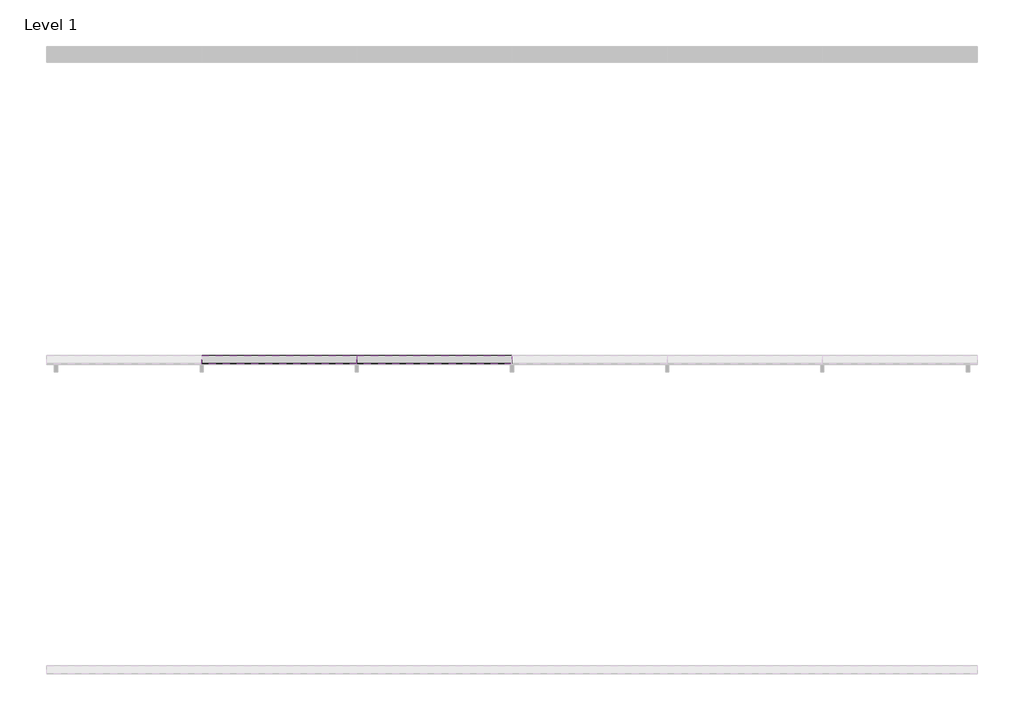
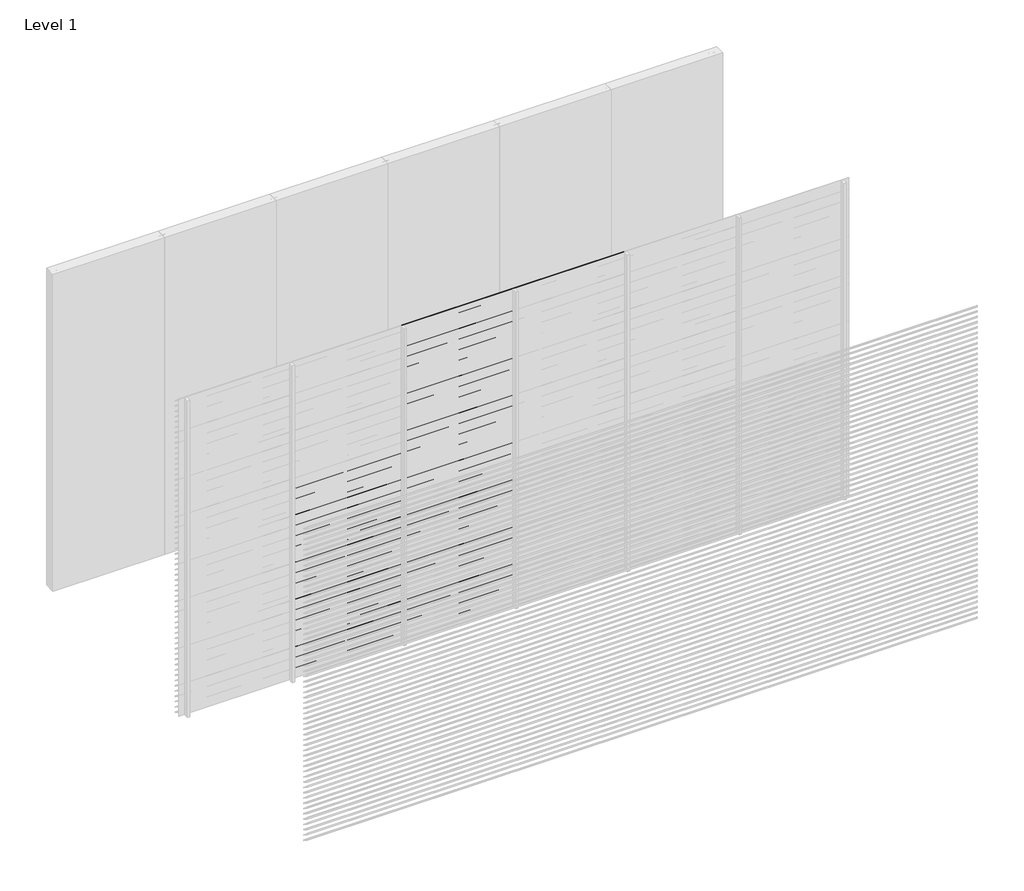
# One storey, part 12 of 18: 97 proxies.
"""IFC4 building model written with IfcOpenShell, lengths in millimetres."""

from ifc_helpers import new_model, si_unit, frame, origin, place, context, project, spatial, polyline, outline, extrude, element, save

model = new_model("IFC4")

# Units and contexts
model_context = context("Model", 3, world=origin())
ifc_project = project(units=[si_unit("LENGTHUNIT", "METRE", prefix="MILLI")], contexts=[model_context])

# Site, building, storey
site = spatial("IfcSite", under=ifc_project)
building = spatial("IfcBuilding", under=site)
storey = spatial("IfcBuildingStorey", under=building, Name="Level 1", Elevation=0.0)

# Proxies
placement = place(None, origin())
element("IfcBuildingElementProxy", 1, Name="Wall Sweeps", at=placement, inside=storey, context=model_context, shape_type="SweptSolid", body=[
    extrude(outline(polyline([(-5995.0, 1800.0), (-5995.0, 1791.0744429), (-5943.0, 1756.0), (-5943.0, 1750.0), (-5997.0, 1786.4234599), (-5997.0, 1800.0), (-5995.0, 1800.0)])), frame((1000.0, 0.0, 0.0), z_axis=(1.0, 0.0, 0.0), x_axis=(0.0, 1.0, 0.0)), (0.0, 0.0, 1.0), 1000.0),
])
element("IfcBuildingElementProxy", 2, Name="Wall Sweeps", at=placement, inside=storey, context=model_context, shape_type="SweptSolid", body=[
    extrude(outline(polyline([(-5995.0, 1750.0), (-5995.0, 1741.0744429), (-5943.0, 1706.0), (-5943.0, 1700.0), (-5997.0, 1736.4234599), (-5997.0, 1750.0), (-5995.0, 1750.0)])), frame((1000.0, 0.0, 0.0), z_axis=(1.0, 0.0, 0.0), x_axis=(0.0, 1.0, 0.0)), (0.0, 0.0, 1.0), 1000.0),
])
element("IfcBuildingElementProxy", 3, Name="Wall Sweeps", at=placement, inside=storey, context=model_context, shape_type="SweptSolid", body=[
    extrude(outline(polyline([(-5995.0, 1700.0), (-5995.0, 1691.0744429), (-5943.0, 1656.0), (-5943.0, 1650.0), (-5997.0, 1686.4234599), (-5997.0, 1700.0), (-5995.0, 1700.0)])), frame((1000.0, 0.0, 0.0), z_axis=(1.0, 0.0, 0.0), x_axis=(0.0, 1.0, 0.0)), (0.0, 0.0, 1.0), 1000.0),
])
element("IfcBuildingElementProxy", 4, Name="Wall Sweeps", at=placement, inside=storey, context=model_context, shape_type="SweptSolid", body=[
    extrude(outline(polyline([(-5995.0, 1650.0), (-5995.0, 1641.0744429), (-5943.0, 1606.0), (-5943.0, 1600.0), (-5997.0, 1636.4234599), (-5997.0, 1650.0), (-5995.0, 1650.0)])), frame((1000.0, 0.0, 0.0), z_axis=(1.0, 0.0, 0.0), x_axis=(0.0, 1.0, 0.0)), (0.0, 0.0, 1.0), 1000.0),
])
element("IfcBuildingElementProxy", 5, Name="Wall Sweeps", at=placement, inside=storey, context=model_context, shape_type="SweptSolid", body=[
    extrude(outline(polyline([(-5995.0, 1600.0), (-5995.0, 1591.0744429), (-5943.0, 1556.0), (-5943.0, 1550.0), (-5997.0, 1586.4234599), (-5997.0, 1600.0), (-5995.0, 1600.0)])), frame((1000.0, 0.0, 0.0), z_axis=(1.0, 0.0, 0.0), x_axis=(0.0, 1.0, 0.0)), (0.0, 0.0, 1.0), 1000.0),
])
element("IfcBuildingElementProxy", 6, Name="Wall Sweeps", at=placement, inside=storey, context=model_context, shape_type="SweptSolid", body=[
    extrude(outline(polyline([(-5995.0, 1550.0), (-5995.0, 1541.0744429), (-5943.0, 1506.0), (-5943.0, 1500.0), (-5997.0, 1536.4234599), (-5997.0, 1550.0), (-5995.0, 1550.0)])), frame((1000.0, 0.0, 0.0), z_axis=(1.0, 0.0, 0.0), x_axis=(0.0, 1.0, 0.0)), (0.0, 0.0, 1.0), 1000.0),
])
element("IfcBuildingElementProxy", 7, Name="Wall Sweeps", at=placement, inside=storey, context=model_context, shape_type="SweptSolid", body=[
    extrude(outline(polyline([(-5995.0, 1500.0), (-5995.0, 1491.0744429), (-5943.0, 1456.0), (-5943.0, 1450.0), (-5997.0, 1486.4234599), (-5997.0, 1500.0), (-5995.0, 1500.0)])), frame((1000.0, 0.0, 0.0), z_axis=(1.0, 0.0, 0.0), x_axis=(0.0, 1.0, 0.0)), (0.0, 0.0, 1.0), 1000.0),
])
element("IfcBuildingElementProxy", 8, Name="Wall Sweeps", at=placement, inside=storey, context=model_context, shape_type="SweptSolid", body=[
    extrude(outline(polyline([(-5995.0, 1450.0), (-5995.0, 1441.0744429), (-5943.0, 1406.0), (-5943.0, 1400.0), (-5997.0, 1436.4234599), (-5997.0, 1450.0), (-5995.0, 1450.0)])), frame((1000.0, 0.0, 0.0), z_axis=(1.0, 0.0, 0.0), x_axis=(0.0, 1.0, 0.0)), (0.0, 0.0, 1.0), 1000.0),
])
element("IfcBuildingElementProxy", 9, Name="Wall Sweeps", at=placement, inside=storey, context=model_context, shape_type="SweptSolid", body=[
    extrude(outline(polyline([(-5995.0, 1400.0), (-5995.0, 1391.0744429), (-5943.0, 1356.0), (-5943.0, 1350.0), (-5997.0, 1386.4234599), (-5997.0, 1400.0), (-5995.0, 1400.0)])), frame((1000.0, 0.0, 0.0), z_axis=(1.0, 0.0, 0.0), x_axis=(0.0, 1.0, 0.0)), (0.0, 0.0, 1.0), 1000.0),
])
element("IfcBuildingElementProxy", 10, Name="Wall Sweeps", at=placement, inside=storey, context=model_context, shape_type="SweptSolid", body=[
    extrude(outline(polyline([(-5995.0, 1350.0), (-5995.0, 1341.0744429), (-5943.0, 1306.0), (-5943.0, 1300.0), (-5997.0, 1336.4234599), (-5997.0, 1350.0), (-5995.0, 1350.0)])), frame((1000.0, 0.0, 0.0), z_axis=(1.0, 0.0, 0.0), x_axis=(0.0, 1.0, 0.0)), (0.0, 0.0, 1.0), 1000.0),
])
element("IfcBuildingElementProxy", 11, Name="Wall Sweeps", at=placement, inside=storey, context=model_context, shape_type="SweptSolid", body=[
    extrude(outline(polyline([(-5995.0, 1300.0), (-5995.0, 1291.0744429), (-5943.0, 1256.0), (-5943.0, 1250.0), (-5997.0, 1286.4234599), (-5997.0, 1300.0), (-5995.0, 1300.0)])), frame((1000.0, 0.0, 0.0), z_axis=(1.0, 0.0, 0.0), x_axis=(0.0, 1.0, 0.0)), (0.0, 0.0, 1.0), 1000.0),
])
element("IfcBuildingElementProxy", 12, Name="Wall Sweeps", at=placement, inside=storey, context=model_context, shape_type="SweptSolid", body=[
    extrude(outline(polyline([(-5995.0, 1250.0), (-5995.0, 1241.0744429), (-5943.0, 1206.0), (-5943.0, 1200.0), (-5997.0, 1236.4234599), (-5997.0, 1250.0), (-5995.0, 1250.0)])), frame((1000.0, 0.0, 0.0), z_axis=(1.0, 0.0, 0.0), x_axis=(0.0, 1.0, 0.0)), (0.0, 0.0, 1.0), 1000.0),
])
element("IfcBuildingElementProxy", 13, Name="Wall Sweeps", at=placement, inside=storey, context=model_context, shape_type="SweptSolid", body=[
    extrude(outline(polyline([(-5995.0, 1200.0), (-5995.0, 1191.0744429), (-5943.0, 1156.0), (-5943.0, 1150.0), (-5997.0, 1186.4234599), (-5997.0, 1200.0), (-5995.0, 1200.0)])), frame((1000.0, 0.0, 0.0), z_axis=(1.0, 0.0, 0.0), x_axis=(0.0, 1.0, 0.0)), (0.0, 0.0, 1.0), 1000.0),
])
element("IfcBuildingElementProxy", 14, Name="Wall Sweeps", at=placement, inside=storey, context=model_context, shape_type="SweptSolid", body=[
    extrude(outline(polyline([(-5995.0, 1150.0), (-5995.0, 1141.0744429), (-5943.0, 1106.0), (-5943.0, 1100.0), (-5997.0, 1136.4234599), (-5997.0, 1150.0), (-5995.0, 1150.0)])), frame((1000.0, 0.0, 0.0), z_axis=(1.0, 0.0, 0.0), x_axis=(0.0, 1.0, 0.0)), (0.0, 0.0, 1.0), 1000.0),
])
element("IfcBuildingElementProxy", 15, Name="Wall Sweeps", at=placement, inside=storey, context=model_context, shape_type="SweptSolid", body=[
    extrude(outline(polyline([(-5995.0, 1100.0), (-5995.0, 1091.0744429), (-5943.0, 1056.0), (-5943.0, 1050.0), (-5997.0, 1086.4234599), (-5997.0, 1100.0), (-5995.0, 1100.0)])), frame((1000.0, 0.0, 0.0), z_axis=(1.0, 0.0, 0.0), x_axis=(0.0, 1.0, 0.0)), (0.0, 0.0, 1.0), 1000.0),
])
element("IfcBuildingElementProxy", 16, Name="Wall Sweeps", at=placement, inside=storey, context=model_context, shape_type="SweptSolid", body=[
    extrude(outline(polyline([(-5995.0, 1050.0), (-5995.0, 1041.0744429), (-5943.0, 1006.0), (-5943.0, 1000.0), (-5997.0, 1036.4234599), (-5997.0, 1050.0), (-5995.0, 1050.0)])), frame((1000.0, 0.0, 0.0), z_axis=(1.0, 0.0, 0.0), x_axis=(0.0, 1.0, 0.0)), (0.0, 0.0, 1.0), 1000.0),
])
element("IfcBuildingElementProxy", 17, Name="Wall Sweeps", at=placement, inside=storey, context=model_context, shape_type="SweptSolid", body=[
    extrude(outline(polyline([(-5995.0, 1000.0), (-5995.0, 991.0744429), (-5943.0, 956.0), (-5943.0, 950.0), (-5997.0, 986.4234599), (-5997.0, 1000.0), (-5995.0, 1000.0)])), frame((1000.0, 0.0, 0.0), z_axis=(1.0, 0.0, 0.0), x_axis=(0.0, 1.0, 0.0)), (0.0, 0.0, 1.0), 1000.0),
])
element("IfcBuildingElementProxy", 18, Name="Wall Sweeps", at=placement, inside=storey, context=model_context, shape_type="SweptSolid", body=[
    extrude(outline(polyline([(-5995.0, 950.0), (-5995.0, 941.0744429), (-5943.0, 906.0), (-5943.0, 900.0), (-5997.0, 936.4234599), (-5997.0, 950.0), (-5995.0, 950.0)])), frame((1000.0, 0.0, 0.0), z_axis=(1.0, 0.0, 0.0), x_axis=(0.0, 1.0, 0.0)), (0.0, 0.0, 1.0), 1000.0),
])
element("IfcBuildingElementProxy", 19, Name="Wall Sweeps", at=placement, inside=storey, context=model_context, shape_type="SweptSolid", body=[
    extrude(outline(polyline([(-5995.0, 900.0), (-5995.0, 891.0744429), (-5943.0, 856.0), (-5943.0, 850.0), (-5997.0, 886.4234599), (-5997.0, 900.0), (-5995.0, 900.0)])), frame((1000.0, 0.0, 0.0), z_axis=(1.0, 0.0, 0.0), x_axis=(0.0, 1.0, 0.0)), (0.0, 0.0, 1.0), 1000.0),
])
element("IfcBuildingElementProxy", 20, Name="Wall Sweeps", at=placement, inside=storey, context=model_context, shape_type="SweptSolid", body=[
    extrude(outline(polyline([(-5995.0, 850.0), (-5995.0, 841.0744429), (-5943.0, 806.0), (-5943.0, 800.0), (-5997.0, 836.4234599), (-5997.0, 850.0), (-5995.0, 850.0)])), frame((1000.0, 0.0, 0.0), z_axis=(1.0, 0.0, 0.0), x_axis=(0.0, 1.0, 0.0)), (0.0, 0.0, 1.0), 1000.0),
])
element("IfcBuildingElementProxy", 21, Name="Wall Sweeps", at=placement, inside=storey, context=model_context, shape_type="SweptSolid", body=[
    extrude(outline(polyline([(-5995.0, 800.0), (-5995.0, 791.0744429), (-5943.0, 756.0), (-5943.0, 750.0), (-5997.0, 786.4234599), (-5997.0, 800.0), (-5995.0, 800.0)])), frame((1000.0, 0.0, 0.0), z_axis=(1.0, 0.0, 0.0), x_axis=(0.0, 1.0, 0.0)), (0.0, 0.0, 1.0), 1000.0),
])
element("IfcBuildingElementProxy", 22, Name="Wall Sweeps", at=placement, inside=storey, context=model_context, shape_type="SweptSolid", body=[
    extrude(outline(polyline([(-5995.0, 750.0), (-5995.0, 741.0744429), (-5943.0, 706.0), (-5943.0, 700.0), (-5997.0, 736.4234599), (-5997.0, 750.0), (-5995.0, 750.0)])), frame((1000.0, 0.0, 0.0), z_axis=(1.0, 0.0, 0.0), x_axis=(0.0, 1.0, 0.0)), (0.0, 0.0, 1.0), 1000.0),
])
element("IfcBuildingElementProxy", 23, Name="Wall Sweeps", at=placement, inside=storey, context=model_context, shape_type="SweptSolid", body=[
    extrude(outline(polyline([(-5995.0, 700.0), (-5995.0, 691.0744429), (-5943.0, 656.0), (-5943.0, 650.0), (-5997.0, 686.4234599), (-5997.0, 700.0), (-5995.0, 700.0)])), frame((1000.0, 0.0, 0.0), z_axis=(1.0, 0.0, 0.0), x_axis=(0.0, 1.0, 0.0)), (0.0, 0.0, 1.0), 1000.0),
])
element("IfcBuildingElementProxy", 24, Name="Wall Sweeps", at=placement, inside=storey, context=model_context, shape_type="SweptSolid", body=[
    extrude(outline(polyline([(-5995.0, 650.0), (-5995.0, 641.0744429), (-5943.0, 606.0), (-5943.0, 600.0), (-5997.0, 636.4234599), (-5997.0, 650.0), (-5995.0, 650.0)])), frame((1000.0, 0.0, 0.0), z_axis=(1.0, 0.0, 0.0), x_axis=(0.0, 1.0, 0.0)), (0.0, 0.0, 1.0), 1000.0),
])
element("IfcBuildingElementProxy", 25, Name="Wall Sweeps", at=placement, inside=storey, context=model_context, shape_type="SweptSolid", body=[
    extrude(outline(polyline([(-5995.0, 600.0), (-5995.0, 591.0744429), (-5943.0, 556.0), (-5943.0, 550.0), (-5997.0, 586.4234599), (-5997.0, 600.0), (-5995.0, 600.0)])), frame((1000.0, 0.0, 0.0), z_axis=(1.0, 0.0, 0.0), x_axis=(0.0, 1.0, 0.0)), (0.0, 0.0, 1.0), 1000.0),
])
element("IfcBuildingElementProxy", 26, Name="Wall Sweeps", at=placement, inside=storey, context=model_context, shape_type="SweptSolid", body=[
    extrude(outline(polyline([(-5995.0, 550.0), (-5995.0, 541.0744429), (-5943.0, 506.0), (-5943.0, 500.0), (-5997.0, 536.4234599), (-5997.0, 550.0), (-5995.0, 550.0)])), frame((1000.0, 0.0, 0.0), z_axis=(1.0, 0.0, 0.0), x_axis=(0.0, 1.0, 0.0)), (0.0, 0.0, 1.0), 1000.0),
])
element("IfcBuildingElementProxy", 27, Name="Wall Sweeps", at=placement, inside=storey, context=model_context, shape_type="SweptSolid", body=[
    extrude(outline(polyline([(-5995.0, 500.0), (-5995.0, 491.0744429), (-5943.0, 456.0), (-5943.0, 450.0), (-5997.0, 486.4234599), (-5997.0, 500.0), (-5995.0, 500.0)])), frame((1000.0, 0.0, 0.0), z_axis=(1.0, 0.0, 0.0), x_axis=(0.0, 1.0, 0.0)), (0.0, 0.0, 1.0), 1000.0),
])
element("IfcBuildingElementProxy", 28, Name="Wall Sweeps", at=placement, inside=storey, context=model_context, shape_type="SweptSolid", body=[
    extrude(outline(polyline([(-5995.0, 450.0), (-5995.0, 441.0744429), (-5943.0, 406.0), (-5943.0, 400.0), (-5997.0, 436.4234599), (-5997.0, 450.0), (-5995.0, 450.0)])), frame((1000.0, 0.0, 0.0), z_axis=(1.0, 0.0, 0.0), x_axis=(0.0, 1.0, 0.0)), (0.0, 0.0, 1.0), 1000.0),
])
element("IfcBuildingElementProxy", 29, Name="Wall Sweeps", at=placement, inside=storey, context=model_context, shape_type="SweptSolid", body=[
    extrude(outline(polyline([(-5995.0, 400.0), (-5995.0, 391.0744429), (-5943.0, 356.0), (-5943.0, 350.0), (-5997.0, 386.4234599), (-5997.0, 400.0), (-5995.0, 400.0)])), frame((1000.0, 0.0, 0.0), z_axis=(1.0, 0.0, 0.0), x_axis=(0.0, 1.0, 0.0)), (0.0, 0.0, 1.0), 1000.0),
])
element("IfcBuildingElementProxy", 30, Name="Wall Sweeps", at=placement, inside=storey, context=model_context, shape_type="SweptSolid", body=[
    extrude(outline(polyline([(-5995.0, 350.0), (-5995.0, 341.0744429), (-5943.0, 306.0), (-5943.0, 300.0), (-5997.0, 336.4234599), (-5997.0, 350.0), (-5995.0, 350.0)])), frame((1000.0, 0.0, 0.0), z_axis=(1.0, 0.0, 0.0), x_axis=(0.0, 1.0, 0.0)), (0.0, 0.0, 1.0), 1000.0),
])
element("IfcBuildingElementProxy", 31, Name="Wall Sweeps", at=placement, inside=storey, context=model_context, shape_type="SweptSolid", body=[
    extrude(outline(polyline([(-5995.0, 300.0), (-5995.0, 291.0744429), (-5943.0, 256.0), (-5943.0, 250.0), (-5997.0, 286.4234599), (-5997.0, 300.0), (-5995.0, 300.0)])), frame((1000.0, 0.0, 0.0), z_axis=(1.0, 0.0, 0.0), x_axis=(0.0, 1.0, 0.0)), (0.0, 0.0, 1.0), 1000.0),
])
element("IfcBuildingElementProxy", 32, Name="Wall Sweeps", at=placement, inside=storey, context=model_context, shape_type="SweptSolid", body=[
    extrude(outline(polyline([(-5995.0, 250.0), (-5995.0, 241.0744429), (-5943.0, 206.0), (-5943.0, 200.0), (-5997.0, 236.4234599), (-5997.0, 250.0), (-5995.0, 250.0)])), frame((1000.0, 0.0, 0.0), z_axis=(1.0, 0.0, 0.0), x_axis=(0.0, 1.0, 0.0)), (0.0, 0.0, 1.0), 1000.0),
])
element("IfcBuildingElementProxy", 33, Name="Wall Sweeps", at=placement, inside=storey, context=model_context, shape_type="SweptSolid", body=[
    extrude(outline(polyline([(-5995.0, 200.0), (-5995.0, 191.0744429), (-5943.0, 156.0), (-5943.0, 150.0), (-5997.0, 186.4234599), (-5997.0, 200.0), (-5995.0, 200.0)])), frame((1000.0, 0.0, 0.0), z_axis=(1.0, 0.0, 0.0), x_axis=(0.0, 1.0, 0.0)), (0.0, 0.0, 1.0), 1000.0),
])
element("IfcBuildingElementProxy", 34, Name="Wall Sweeps", at=placement, inside=storey, context=model_context, shape_type="SweptSolid", body=[
    extrude(outline(polyline([(-5995.0, 150.0), (-5995.0, 141.0744429), (-5943.0, 106.0), (-5943.0, 100.0), (-5997.0, 136.4234599), (-5997.0, 150.0), (-5995.0, 150.0)])), frame((1000.0, 0.0, 0.0), z_axis=(1.0, 0.0, 0.0), x_axis=(0.0, 1.0, 0.0)), (0.0, 0.0, 1.0), 1000.0),
])
element("IfcBuildingElementProxy", 35, Name="Wall Sweeps", at=placement, inside=storey, context=model_context, shape_type="SweptSolid", body=[
    extrude(outline(polyline([(-5995.0, 100.0), (-5995.0, 91.0744429), (-5943.0, 56.0), (-5943.0, 50.0), (-5997.0, 86.4234599), (-5997.0, 100.0), (-5995.0, 100.0)])), frame((1000.0, 0.0, 0.0), z_axis=(1.0, 0.0, 0.0), x_axis=(0.0, 1.0, 0.0)), (0.0, 0.0, 1.0), 1000.0),
])
element("IfcBuildingElementProxy", 36, Name="Wall Sweeps", at=placement, inside=storey, context=model_context, shape_type="SweptSolid", body=[
    extrude(outline(polyline([(-5995.0, 50.0), (-5995.0, 41.0744429), (-5943.0, 6.0), (-5943.0, 0.0), (-5997.0, 36.4234599), (-5997.0, 50.0), (-5995.0, 50.0)])), frame((1000.0, 0.0, 0.0), z_axis=(1.0, 0.0, 0.0), x_axis=(0.0, 1.0, 0.0)), (0.0, 0.0, 1.0), 1000.0),
])
element("IfcBuildingElementProxy", 37, Name="Wall Sweeps", at=placement, inside=storey, context=model_context, shape_type="SweptSolid", body=[
    extrude(outline(polyline([(-5995.0, 3000.0), (-5995.0, 2991.0744429), (-5943.0, 2956.0), (-5943.0, 2950.0), (-5997.0, 2986.4234599), (-5997.0, 3000.0), (-5995.0, 3000.0)])), frame((2000.0, 0.0, 0.0), z_axis=(1.0, 0.0, 0.0), x_axis=(0.0, 1.0, 0.0)), (0.0, 0.0, 1.0), 1000.0),
])
element("IfcBuildingElementProxy", 38, Name="Wall Sweeps", at=placement, inside=storey, context=model_context, shape_type="SweptSolid", body=[
    extrude(outline(polyline([(-5995.0, 2950.0), (-5995.0, 2941.0744429), (-5943.0, 2906.0), (-5943.0, 2900.0), (-5997.0, 2936.4234599), (-5997.0, 2950.0), (-5995.0, 2950.0)])), frame((2000.0, 0.0, 0.0), z_axis=(1.0, 0.0, 0.0), x_axis=(0.0, 1.0, 0.0)), (0.0, 0.0, 1.0), 1000.0),
])
element("IfcBuildingElementProxy", 39, Name="Wall Sweeps", at=placement, inside=storey, context=model_context, shape_type="SweptSolid", body=[
    extrude(outline(polyline([(-5995.0, 2900.0), (-5995.0, 2891.0744429), (-5943.0, 2856.0), (-5943.0, 2850.0), (-5997.0, 2886.4234599), (-5997.0, 2900.0), (-5995.0, 2900.0)])), frame((2000.0, 0.0, 0.0), z_axis=(1.0, 0.0, 0.0), x_axis=(0.0, 1.0, 0.0)), (0.0, 0.0, 1.0), 1000.0),
])
element("IfcBuildingElementProxy", 40, Name="Wall Sweeps", at=placement, inside=storey, context=model_context, shape_type="SweptSolid", body=[
    extrude(outline(polyline([(-5995.0, 2850.0), (-5995.0, 2841.0744429), (-5943.0, 2806.0), (-5943.0, 2800.0), (-5997.0, 2836.4234599), (-5997.0, 2850.0), (-5995.0, 2850.0)])), frame((2000.0, 0.0, 0.0), z_axis=(1.0, 0.0, 0.0), x_axis=(0.0, 1.0, 0.0)), (0.0, 0.0, 1.0), 1000.0),
])
element("IfcBuildingElementProxy", 41, Name="Wall Sweeps", at=placement, inside=storey, context=model_context, shape_type="SweptSolid", body=[
    extrude(outline(polyline([(-5995.0, 2800.0), (-5995.0, 2791.0744429), (-5943.0, 2756.0), (-5943.0, 2750.0), (-5997.0, 2786.4234599), (-5997.0, 2800.0), (-5995.0, 2800.0)])), frame((2000.0, 0.0, 0.0), z_axis=(1.0, 0.0, 0.0), x_axis=(0.0, 1.0, 0.0)), (0.0, 0.0, 1.0), 1000.0),
])
element("IfcBuildingElementProxy", 42, Name="Wall Sweeps", at=placement, inside=storey, context=model_context, shape_type="SweptSolid", body=[
    extrude(outline(polyline([(-5995.0, 2750.0), (-5995.0, 2741.0744429), (-5943.0, 2706.0), (-5943.0, 2700.0), (-5997.0, 2736.4234599), (-5997.0, 2750.0), (-5995.0, 2750.0)])), frame((2000.0, 0.0, 0.0), z_axis=(1.0, 0.0, 0.0), x_axis=(0.0, 1.0, 0.0)), (0.0, 0.0, 1.0), 1000.0),
])
element("IfcBuildingElementProxy", 43, Name="Wall Sweeps", at=placement, inside=storey, context=model_context, shape_type="SweptSolid", body=[
    extrude(outline(polyline([(-5995.0, 2700.0), (-5995.0, 2691.0744429), (-5943.0, 2656.0), (-5943.0, 2650.0), (-5997.0, 2686.4234599), (-5997.0, 2700.0), (-5995.0, 2700.0)])), frame((2000.0, 0.0, 0.0), z_axis=(1.0, 0.0, 0.0), x_axis=(0.0, 1.0, 0.0)), (0.0, 0.0, 1.0), 1000.0),
])
element("IfcBuildingElementProxy", 44, Name="Wall Sweeps", at=placement, inside=storey, context=model_context, shape_type="SweptSolid", body=[
    extrude(outline(polyline([(-5995.0, 2650.0), (-5995.0, 2641.0744429), (-5943.0, 2606.0), (-5943.0, 2600.0), (-5997.0, 2636.4234599), (-5997.0, 2650.0), (-5995.0, 2650.0)])), frame((2000.0, 0.0, 0.0), z_axis=(1.0, 0.0, 0.0), x_axis=(0.0, 1.0, 0.0)), (0.0, 0.0, 1.0), 1000.0),
])
element("IfcBuildingElementProxy", 45, Name="Wall Sweeps", at=placement, inside=storey, context=model_context, shape_type="SweptSolid", body=[
    extrude(outline(polyline([(-5995.0, 2600.0), (-5995.0, 2591.0744429), (-5943.0, 2556.0), (-5943.0, 2550.0), (-5997.0, 2586.4234599), (-5997.0, 2600.0), (-5995.0, 2600.0)])), frame((2000.0, 0.0, 0.0), z_axis=(1.0, 0.0, 0.0), x_axis=(0.0, 1.0, 0.0)), (0.0, 0.0, 1.0), 1000.0),
])
element("IfcBuildingElementProxy", 46, Name="Wall Sweeps", at=placement, inside=storey, context=model_context, shape_type="SweptSolid", body=[
    extrude(outline(polyline([(-5995.0, 2550.0), (-5995.0, 2541.0744429), (-5943.0, 2506.0), (-5943.0, 2500.0), (-5997.0, 2536.4234599), (-5997.0, 2550.0), (-5995.0, 2550.0)])), frame((2000.0, 0.0, 0.0), z_axis=(1.0, 0.0, 0.0), x_axis=(0.0, 1.0, 0.0)), (0.0, 0.0, 1.0), 1000.0),
])
element("IfcBuildingElementProxy", 47, Name="Wall Sweeps", at=placement, inside=storey, context=model_context, shape_type="SweptSolid", body=[
    extrude(outline(polyline([(-5995.0, 2500.0), (-5995.0, 2491.0744429), (-5943.0, 2456.0), (-5943.0, 2450.0), (-5997.0, 2486.4234599), (-5997.0, 2500.0), (-5995.0, 2500.0)])), frame((2000.0, 0.0, 0.0), z_axis=(1.0, 0.0, 0.0), x_axis=(0.0, 1.0, 0.0)), (0.0, 0.0, 1.0), 1000.0),
])
element("IfcBuildingElementProxy", 48, Name="Wall Sweeps", at=placement, inside=storey, context=model_context, shape_type="SweptSolid", body=[
    extrude(outline(polyline([(-5995.0, 2450.0), (-5995.0, 2441.0744429), (-5943.0, 2406.0), (-5943.0, 2400.0), (-5997.0, 2436.4234599), (-5997.0, 2450.0), (-5995.0, 2450.0)])), frame((2000.0, 0.0, 0.0), z_axis=(1.0, 0.0, 0.0), x_axis=(0.0, 1.0, 0.0)), (0.0, 0.0, 1.0), 1000.0),
])
element("IfcBuildingElementProxy", 49, Name="Wall Sweeps", at=placement, inside=storey, context=model_context, shape_type="SweptSolid", body=[
    extrude(outline(polyline([(-5995.0, 2400.0), (-5995.0, 2391.0744429), (-5943.0, 2356.0), (-5943.0, 2350.0), (-5997.0, 2386.4234599), (-5997.0, 2400.0), (-5995.0, 2400.0)])), frame((2000.0, 0.0, 0.0), z_axis=(1.0, 0.0, 0.0), x_axis=(0.0, 1.0, 0.0)), (0.0, 0.0, 1.0), 1000.0),
])
element("IfcBuildingElementProxy", 50, Name="Wall Sweeps", at=placement, inside=storey, context=model_context, shape_type="SweptSolid", body=[
    extrude(outline(polyline([(-5995.0, 2350.0), (-5995.0, 2341.0744429), (-5943.0, 2306.0), (-5943.0, 2300.0), (-5997.0, 2336.4234599), (-5997.0, 2350.0), (-5995.0, 2350.0)])), frame((2000.0, 0.0, 0.0), z_axis=(1.0, 0.0, 0.0), x_axis=(0.0, 1.0, 0.0)), (0.0, 0.0, 1.0), 1000.0),
])
element("IfcBuildingElementProxy", 51, Name="Wall Sweeps", at=placement, inside=storey, context=model_context, shape_type="SweptSolid", body=[
    extrude(outline(polyline([(-5995.0, 2300.0), (-5995.0, 2291.0744429), (-5943.0, 2256.0), (-5943.0, 2250.0), (-5997.0, 2286.4234599), (-5997.0, 2300.0), (-5995.0, 2300.0)])), frame((2000.0, 0.0, 0.0), z_axis=(1.0, 0.0, 0.0), x_axis=(0.0, 1.0, 0.0)), (0.0, 0.0, 1.0), 1000.0),
])
element("IfcBuildingElementProxy", 52, Name="Wall Sweeps", at=placement, inside=storey, context=model_context, shape_type="SweptSolid", body=[
    extrude(outline(polyline([(-5995.0, 2250.0), (-5995.0, 2241.0744429), (-5943.0, 2206.0), (-5943.0, 2200.0), (-5997.0, 2236.4234599), (-5997.0, 2250.0), (-5995.0, 2250.0)])), frame((2000.0, 0.0, 0.0), z_axis=(1.0, 0.0, 0.0), x_axis=(0.0, 1.0, 0.0)), (0.0, 0.0, 1.0), 1000.0),
])
element("IfcBuildingElementProxy", 53, Name="Wall Sweeps", at=placement, inside=storey, context=model_context, shape_type="SweptSolid", body=[
    extrude(outline(polyline([(-5995.0, 2200.0), (-5995.0, 2191.0744429), (-5943.0, 2156.0), (-5943.0, 2150.0), (-5997.0, 2186.4234599), (-5997.0, 2200.0), (-5995.0, 2200.0)])), frame((2000.0, 0.0, 0.0), z_axis=(1.0, 0.0, 0.0), x_axis=(0.0, 1.0, 0.0)), (0.0, 0.0, 1.0), 1000.0),
])
element("IfcBuildingElementProxy", 54, Name="Wall Sweeps", at=placement, inside=storey, context=model_context, shape_type="SweptSolid", body=[
    extrude(outline(polyline([(-5995.0, 2150.0), (-5995.0, 2141.0744429), (-5943.0, 2106.0), (-5943.0, 2100.0), (-5997.0, 2136.4234599), (-5997.0, 2150.0), (-5995.0, 2150.0)])), frame((2000.0, 0.0, 0.0), z_axis=(1.0, 0.0, 0.0), x_axis=(0.0, 1.0, 0.0)), (0.0, 0.0, 1.0), 1000.0),
])
element("IfcBuildingElementProxy", 55, Name="Wall Sweeps", at=placement, inside=storey, context=model_context, shape_type="SweptSolid", body=[
    extrude(outline(polyline([(-5995.0, 2100.0), (-5995.0, 2091.0744429), (-5943.0, 2056.0), (-5943.0, 2050.0), (-5997.0, 2086.4234599), (-5997.0, 2100.0), (-5995.0, 2100.0)])), frame((2000.0, 0.0, 0.0), z_axis=(1.0, 0.0, 0.0), x_axis=(0.0, 1.0, 0.0)), (0.0, 0.0, 1.0), 1000.0),
])
element("IfcBuildingElementProxy", 56, Name="Wall Sweeps", at=placement, inside=storey, context=model_context, shape_type="SweptSolid", body=[
    extrude(outline(polyline([(-5995.0, 2050.0), (-5995.0, 2041.0744429), (-5943.0, 2006.0), (-5943.0, 2000.0), (-5997.0, 2036.4234599), (-5997.0, 2050.0), (-5995.0, 2050.0)])), frame((2000.0, 0.0, 0.0), z_axis=(1.0, 0.0, 0.0), x_axis=(0.0, 1.0, 0.0)), (0.0, 0.0, 1.0), 1000.0),
])
element("IfcBuildingElementProxy", 57, Name="Wall Sweeps", at=placement, inside=storey, context=model_context, shape_type="SweptSolid", body=[
    extrude(outline(polyline([(-5995.0, 2000.0), (-5995.0, 1991.0744429), (-5943.0, 1956.0), (-5943.0, 1950.0), (-5997.0, 1986.4234599), (-5997.0, 2000.0), (-5995.0, 2000.0)])), frame((2000.0, 0.0, 0.0), z_axis=(1.0, 0.0, 0.0), x_axis=(0.0, 1.0, 0.0)), (0.0, 0.0, 1.0), 1000.0),
])
element("IfcBuildingElementProxy", 58, Name="Wall Sweeps", at=placement, inside=storey, context=model_context, shape_type="SweptSolid", body=[
    extrude(outline(polyline([(-5995.0, 1950.0), (-5995.0, 1941.0744429), (-5943.0, 1906.0), (-5943.0, 1900.0), (-5997.0, 1936.4234599), (-5997.0, 1950.0), (-5995.0, 1950.0)])), frame((2000.0, 0.0, 0.0), z_axis=(1.0, 0.0, 0.0), x_axis=(0.0, 1.0, 0.0)), (0.0, 0.0, 1.0), 1000.0),
])
element("IfcBuildingElementProxy", 59, Name="Wall Sweeps", at=placement, inside=storey, context=model_context, shape_type="SweptSolid", body=[
    extrude(outline(polyline([(-5995.0, 1900.0), (-5995.0, 1891.0744429), (-5943.0, 1856.0), (-5943.0, 1850.0), (-5997.0, 1886.4234599), (-5997.0, 1900.0), (-5995.0, 1900.0)])), frame((2000.0, 0.0, 0.0), z_axis=(1.0, 0.0, 0.0), x_axis=(0.0, 1.0, 0.0)), (0.0, 0.0, 1.0), 1000.0),
])
element("IfcBuildingElementProxy", 60, Name="Wall Sweeps", at=placement, inside=storey, context=model_context, shape_type="SweptSolid", body=[
    extrude(outline(polyline([(-5995.0, 1850.0), (-5995.0, 1841.0744429), (-5943.0, 1806.0), (-5943.0, 1800.0), (-5997.0, 1836.4234599), (-5997.0, 1850.0), (-5995.0, 1850.0)])), frame((2000.0, 0.0, 0.0), z_axis=(1.0, 0.0, 0.0), x_axis=(0.0, 1.0, 0.0)), (0.0, 0.0, 1.0), 1000.0),
])
element("IfcBuildingElementProxy", 61, Name="Wall Sweeps", at=placement, inside=storey, context=model_context, shape_type="SweptSolid", body=[
    extrude(outline(polyline([(-5995.0, 1800.0), (-5995.0, 1791.0744429), (-5943.0, 1756.0), (-5943.0, 1750.0), (-5997.0, 1786.4234599), (-5997.0, 1800.0), (-5995.0, 1800.0)])), frame((2000.0, 0.0, 0.0), z_axis=(1.0, 0.0, 0.0), x_axis=(0.0, 1.0, 0.0)), (0.0, 0.0, 1.0), 1000.0),
])
element("IfcBuildingElementProxy", 62, Name="Wall Sweeps", at=placement, inside=storey, context=model_context, shape_type="SweptSolid", body=[
    extrude(outline(polyline([(-5995.0, 1750.0), (-5995.0, 1741.0744429), (-5943.0, 1706.0), (-5943.0, 1700.0), (-5997.0, 1736.4234599), (-5997.0, 1750.0), (-5995.0, 1750.0)])), frame((2000.0, 0.0, 0.0), z_axis=(1.0, 0.0, 0.0), x_axis=(0.0, 1.0, 0.0)), (0.0, 0.0, 1.0), 1000.0),
])
element("IfcBuildingElementProxy", 63, Name="Wall Sweeps", at=placement, inside=storey, context=model_context, shape_type="SweptSolid", body=[
    extrude(outline(polyline([(-5995.0, 1700.0), (-5995.0, 1691.0744429), (-5943.0, 1656.0), (-5943.0, 1650.0), (-5997.0, 1686.4234599), (-5997.0, 1700.0), (-5995.0, 1700.0)])), frame((2000.0, 0.0, 0.0), z_axis=(1.0, 0.0, 0.0), x_axis=(0.0, 1.0, 0.0)), (0.0, 0.0, 1.0), 1000.0),
])
element("IfcBuildingElementProxy", 64, Name="Wall Sweeps", at=placement, inside=storey, context=model_context, shape_type="SweptSolid", body=[
    extrude(outline(polyline([(-5995.0, 1650.0), (-5995.0, 1641.0744429), (-5943.0, 1606.0), (-5943.0, 1600.0), (-5997.0, 1636.4234599), (-5997.0, 1650.0), (-5995.0, 1650.0)])), frame((2000.0, 0.0, 0.0), z_axis=(1.0, 0.0, 0.0), x_axis=(0.0, 1.0, 0.0)), (0.0, 0.0, 1.0), 1000.0),
])
element("IfcBuildingElementProxy", 65, Name="Wall Sweeps", at=placement, inside=storey, context=model_context, shape_type="SweptSolid", body=[
    extrude(outline(polyline([(-5995.0, 1600.0), (-5995.0, 1591.0744429), (-5943.0, 1556.0), (-5943.0, 1550.0), (-5997.0, 1586.4234599), (-5997.0, 1600.0), (-5995.0, 1600.0)])), frame((2000.0, 0.0, 0.0), z_axis=(1.0, 0.0, 0.0), x_axis=(0.0, 1.0, 0.0)), (0.0, 0.0, 1.0), 1000.0),
])
element("IfcBuildingElementProxy", 66, Name="Wall Sweeps", at=placement, inside=storey, context=model_context, shape_type="SweptSolid", body=[
    extrude(outline(polyline([(-5995.0, 1550.0), (-5995.0, 1541.0744429), (-5943.0, 1506.0), (-5943.0, 1500.0), (-5997.0, 1536.4234599), (-5997.0, 1550.0), (-5995.0, 1550.0)])), frame((2000.0, 0.0, 0.0), z_axis=(1.0, 0.0, 0.0), x_axis=(0.0, 1.0, 0.0)), (0.0, 0.0, 1.0), 1000.0),
])
element("IfcBuildingElementProxy", 67, Name="Wall Sweeps", at=placement, inside=storey, context=model_context, shape_type="SweptSolid", body=[
    extrude(outline(polyline([(-5995.0, 1500.0), (-5995.0, 1491.0744429), (-5943.0, 1456.0), (-5943.0, 1450.0), (-5997.0, 1486.4234599), (-5997.0, 1500.0), (-5995.0, 1500.0)])), frame((2000.0, 0.0, 0.0), z_axis=(1.0, 0.0, 0.0), x_axis=(0.0, 1.0, 0.0)), (0.0, 0.0, 1.0), 1000.0),
])
element("IfcBuildingElementProxy", 68, Name="Wall Sweeps", at=placement, inside=storey, context=model_context, shape_type="SweptSolid", body=[
    extrude(outline(polyline([(-5995.0, 1450.0), (-5995.0, 1441.0744429), (-5943.0, 1406.0), (-5943.0, 1400.0), (-5997.0, 1436.4234599), (-5997.0, 1450.0), (-5995.0, 1450.0)])), frame((2000.0, 0.0, 0.0), z_axis=(1.0, 0.0, 0.0), x_axis=(0.0, 1.0, 0.0)), (0.0, 0.0, 1.0), 1000.0),
])
element("IfcBuildingElementProxy", 69, Name="Wall Sweeps", at=placement, inside=storey, context=model_context, shape_type="SweptSolid", body=[
    extrude(outline(polyline([(-5995.0, 1400.0), (-5995.0, 1391.0744429), (-5943.0, 1356.0), (-5943.0, 1350.0), (-5997.0, 1386.4234599), (-5997.0, 1400.0), (-5995.0, 1400.0)])), frame((2000.0, 0.0, 0.0), z_axis=(1.0, 0.0, 0.0), x_axis=(0.0, 1.0, 0.0)), (0.0, 0.0, 1.0), 1000.0),
])
element("IfcBuildingElementProxy", 70, Name="Wall Sweeps", at=placement, inside=storey, context=model_context, shape_type="SweptSolid", body=[
    extrude(outline(polyline([(-5995.0, 1350.0), (-5995.0, 1341.0744429), (-5943.0, 1306.0), (-5943.0, 1300.0), (-5997.0, 1336.4234599), (-5997.0, 1350.0), (-5995.0, 1350.0)])), frame((2000.0, 0.0, 0.0), z_axis=(1.0, 0.0, 0.0), x_axis=(0.0, 1.0, 0.0)), (0.0, 0.0, 1.0), 1000.0),
])
element("IfcBuildingElementProxy", 71, Name="Wall Sweeps", at=placement, inside=storey, context=model_context, shape_type="SweptSolid", body=[
    extrude(outline(polyline([(-5995.0, 1300.0), (-5995.0, 1291.0744429), (-5943.0, 1256.0), (-5943.0, 1250.0), (-5997.0, 1286.4234599), (-5997.0, 1300.0), (-5995.0, 1300.0)])), frame((2000.0, 0.0, 0.0), z_axis=(1.0, 0.0, 0.0), x_axis=(0.0, 1.0, 0.0)), (0.0, 0.0, 1.0), 1000.0),
])
element("IfcBuildingElementProxy", 72, Name="Wall Sweeps", at=placement, inside=storey, context=model_context, shape_type="SweptSolid", body=[
    extrude(outline(polyline([(-5995.0, 1250.0), (-5995.0, 1241.0744429), (-5943.0, 1206.0), (-5943.0, 1200.0), (-5997.0, 1236.4234599), (-5997.0, 1250.0), (-5995.0, 1250.0)])), frame((2000.0, 0.0, 0.0), z_axis=(1.0, 0.0, 0.0), x_axis=(0.0, 1.0, 0.0)), (0.0, 0.0, 1.0), 1000.0),
])
element("IfcBuildingElementProxy", 73, Name="Wall Sweeps", at=placement, inside=storey, context=model_context, shape_type="SweptSolid", body=[
    extrude(outline(polyline([(-5995.0, 1200.0), (-5995.0, 1191.0744429), (-5943.0, 1156.0), (-5943.0, 1150.0), (-5997.0, 1186.4234599), (-5997.0, 1200.0), (-5995.0, 1200.0)])), frame((2000.0, 0.0, 0.0), z_axis=(1.0, 0.0, 0.0), x_axis=(0.0, 1.0, 0.0)), (0.0, 0.0, 1.0), 1000.0),
])
element("IfcBuildingElementProxy", 74, Name="Wall Sweeps", at=placement, inside=storey, context=model_context, shape_type="SweptSolid", body=[
    extrude(outline(polyline([(-5995.0, 1150.0), (-5995.0, 1141.0744429), (-5943.0, 1106.0), (-5943.0, 1100.0), (-5997.0, 1136.4234599), (-5997.0, 1150.0), (-5995.0, 1150.0)])), frame((2000.0, 0.0, 0.0), z_axis=(1.0, 0.0, 0.0), x_axis=(0.0, 1.0, 0.0)), (0.0, 0.0, 1.0), 1000.0),
])
element("IfcBuildingElementProxy", 75, Name="Wall Sweeps", at=placement, inside=storey, context=model_context, shape_type="SweptSolid", body=[
    extrude(outline(polyline([(-5995.0, 1100.0), (-5995.0, 1091.0744429), (-5943.0, 1056.0), (-5943.0, 1050.0), (-5997.0, 1086.4234599), (-5997.0, 1100.0), (-5995.0, 1100.0)])), frame((2000.0, 0.0, 0.0), z_axis=(1.0, 0.0, 0.0), x_axis=(0.0, 1.0, 0.0)), (0.0, 0.0, 1.0), 1000.0),
])
element("IfcBuildingElementProxy", 76, Name="Wall Sweeps", at=placement, inside=storey, context=model_context, shape_type="SweptSolid", body=[
    extrude(outline(polyline([(-5995.0, 1050.0), (-5995.0, 1041.0744429), (-5943.0, 1006.0), (-5943.0, 1000.0), (-5997.0, 1036.4234599), (-5997.0, 1050.0), (-5995.0, 1050.0)])), frame((2000.0, 0.0, 0.0), z_axis=(1.0, 0.0, 0.0), x_axis=(0.0, 1.0, 0.0)), (0.0, 0.0, 1.0), 1000.0),
])
element("IfcBuildingElementProxy", 77, Name="Wall Sweeps", at=placement, inside=storey, context=model_context, shape_type="SweptSolid", body=[
    extrude(outline(polyline([(-5995.0, 1000.0), (-5995.0, 991.0744429), (-5943.0, 956.0), (-5943.0, 950.0), (-5997.0, 986.4234599), (-5997.0, 1000.0), (-5995.0, 1000.0)])), frame((2000.0, 0.0, 0.0), z_axis=(1.0, 0.0, 0.0), x_axis=(0.0, 1.0, 0.0)), (0.0, 0.0, 1.0), 1000.0),
])
element("IfcBuildingElementProxy", 78, Name="Wall Sweeps", at=placement, inside=storey, context=model_context, shape_type="SweptSolid", body=[
    extrude(outline(polyline([(-5995.0, 950.0), (-5995.0, 941.0744429), (-5943.0, 906.0), (-5943.0, 900.0), (-5997.0, 936.4234599), (-5997.0, 950.0), (-5995.0, 950.0)])), frame((2000.0, 0.0, 0.0), z_axis=(1.0, 0.0, 0.0), x_axis=(0.0, 1.0, 0.0)), (0.0, 0.0, 1.0), 1000.0),
])
element("IfcBuildingElementProxy", 79, Name="Wall Sweeps", at=placement, inside=storey, context=model_context, shape_type="SweptSolid", body=[
    extrude(outline(polyline([(-5995.0, 900.0), (-5995.0, 891.0744429), (-5943.0, 856.0), (-5943.0, 850.0), (-5997.0, 886.4234599), (-5997.0, 900.0), (-5995.0, 900.0)])), frame((2000.0, 0.0, 0.0), z_axis=(1.0, 0.0, 0.0), x_axis=(0.0, 1.0, 0.0)), (0.0, 0.0, 1.0), 1000.0),
])
element("IfcBuildingElementProxy", 80, Name="Wall Sweeps", at=placement, inside=storey, context=model_context, shape_type="SweptSolid", body=[
    extrude(outline(polyline([(-5995.0, 850.0), (-5995.0, 841.0744429), (-5943.0, 806.0), (-5943.0, 800.0), (-5997.0, 836.4234599), (-5997.0, 850.0), (-5995.0, 850.0)])), frame((2000.0, 0.0, 0.0), z_axis=(1.0, 0.0, 0.0), x_axis=(0.0, 1.0, 0.0)), (0.0, 0.0, 1.0), 1000.0),
])
element("IfcBuildingElementProxy", 81, Name="Wall Sweeps", at=placement, inside=storey, context=model_context, shape_type="SweptSolid", body=[
    extrude(outline(polyline([(-5995.0, 800.0), (-5995.0, 791.0744429), (-5943.0, 756.0), (-5943.0, 750.0), (-5997.0, 786.4234599), (-5997.0, 800.0), (-5995.0, 800.0)])), frame((2000.0, 0.0, 0.0), z_axis=(1.0, 0.0, 0.0), x_axis=(0.0, 1.0, 0.0)), (0.0, 0.0, 1.0), 1000.0),
])
element("IfcBuildingElementProxy", 82, Name="Wall Sweeps", at=placement, inside=storey, context=model_context, shape_type="SweptSolid", body=[
    extrude(outline(polyline([(-5995.0, 750.0), (-5995.0, 741.0744429), (-5943.0, 706.0), (-5943.0, 700.0), (-5997.0, 736.4234599), (-5997.0, 750.0), (-5995.0, 750.0)])), frame((2000.0, 0.0, 0.0), z_axis=(1.0, 0.0, 0.0), x_axis=(0.0, 1.0, 0.0)), (0.0, 0.0, 1.0), 1000.0),
])
element("IfcBuildingElementProxy", 83, Name="Wall Sweeps", at=placement, inside=storey, context=model_context, shape_type="SweptSolid", body=[
    extrude(outline(polyline([(-5995.0, 700.0), (-5995.0, 691.0744429), (-5943.0, 656.0), (-5943.0, 650.0), (-5997.0, 686.4234599), (-5997.0, 700.0), (-5995.0, 700.0)])), frame((2000.0, 0.0, 0.0), z_axis=(1.0, 0.0, 0.0), x_axis=(0.0, 1.0, 0.0)), (0.0, 0.0, 1.0), 1000.0),
])
element("IfcBuildingElementProxy", 84, Name="Wall Sweeps", at=placement, inside=storey, context=model_context, shape_type="SweptSolid", body=[
    extrude(outline(polyline([(-5995.0, 650.0), (-5995.0, 641.0744429), (-5943.0, 606.0), (-5943.0, 600.0), (-5997.0, 636.4234599), (-5997.0, 650.0), (-5995.0, 650.0)])), frame((2000.0, 0.0, 0.0), z_axis=(1.0, 0.0, 0.0), x_axis=(0.0, 1.0, 0.0)), (0.0, 0.0, 1.0), 1000.0),
])
element("IfcBuildingElementProxy", 85, Name="Wall Sweeps", at=placement, inside=storey, context=model_context, shape_type="SweptSolid", body=[
    extrude(outline(polyline([(-5995.0, 600.0), (-5995.0, 591.0744429), (-5943.0, 556.0), (-5943.0, 550.0), (-5997.0, 586.4234599), (-5997.0, 600.0), (-5995.0, 600.0)])), frame((2000.0, 0.0, 0.0), z_axis=(1.0, 0.0, 0.0), x_axis=(0.0, 1.0, 0.0)), (0.0, 0.0, 1.0), 1000.0),
])
element("IfcBuildingElementProxy", 86, Name="Wall Sweeps", at=placement, inside=storey, context=model_context, shape_type="SweptSolid", body=[
    extrude(outline(polyline([(-5995.0, 550.0), (-5995.0, 541.0744429), (-5943.0, 506.0), (-5943.0, 500.0), (-5997.0, 536.4234599), (-5997.0, 550.0), (-5995.0, 550.0)])), frame((2000.0, 0.0, 0.0), z_axis=(1.0, 0.0, 0.0), x_axis=(0.0, 1.0, 0.0)), (0.0, 0.0, 1.0), 1000.0),
])
element("IfcBuildingElementProxy", 87, Name="Wall Sweeps", at=placement, inside=storey, context=model_context, shape_type="SweptSolid", body=[
    extrude(outline(polyline([(-5995.0, 500.0), (-5995.0, 491.0744429), (-5943.0, 456.0), (-5943.0, 450.0), (-5997.0, 486.4234599), (-5997.0, 500.0), (-5995.0, 500.0)])), frame((2000.0, 0.0, 0.0), z_axis=(1.0, 0.0, 0.0), x_axis=(0.0, 1.0, 0.0)), (0.0, 0.0, 1.0), 1000.0),
])
element("IfcBuildingElementProxy", 88, Name="Wall Sweeps", at=placement, inside=storey, context=model_context, shape_type="SweptSolid", body=[
    extrude(outline(polyline([(-5995.0, 450.0), (-5995.0, 441.0744429), (-5943.0, 406.0), (-5943.0, 400.0), (-5997.0, 436.4234599), (-5997.0, 450.0), (-5995.0, 450.0)])), frame((2000.0, 0.0, 0.0), z_axis=(1.0, 0.0, 0.0), x_axis=(0.0, 1.0, 0.0)), (0.0, 0.0, 1.0), 1000.0),
])
element("IfcBuildingElementProxy", 89, Name="Wall Sweeps", at=placement, inside=storey, context=model_context, shape_type="SweptSolid", body=[
    extrude(outline(polyline([(-5995.0, 400.0), (-5995.0, 391.0744429), (-5943.0, 356.0), (-5943.0, 350.0), (-5997.0, 386.4234599), (-5997.0, 400.0), (-5995.0, 400.0)])), frame((2000.0, 0.0, 0.0), z_axis=(1.0, 0.0, 0.0), x_axis=(0.0, 1.0, 0.0)), (0.0, 0.0, 1.0), 1000.0),
])
element("IfcBuildingElementProxy", 90, Name="Wall Sweeps", at=placement, inside=storey, context=model_context, shape_type="SweptSolid", body=[
    extrude(outline(polyline([(-5995.0, 350.0), (-5995.0, 341.0744429), (-5943.0, 306.0), (-5943.0, 300.0), (-5997.0, 336.4234599), (-5997.0, 350.0), (-5995.0, 350.0)])), frame((2000.0, 0.0, 0.0), z_axis=(1.0, 0.0, 0.0), x_axis=(0.0, 1.0, 0.0)), (0.0, 0.0, 1.0), 1000.0),
])
element("IfcBuildingElementProxy", 91, Name="Wall Sweeps", at=placement, inside=storey, context=model_context, shape_type="SweptSolid", body=[
    extrude(outline(polyline([(-5995.0, 300.0), (-5995.0, 291.0744429), (-5943.0, 256.0), (-5943.0, 250.0), (-5997.0, 286.4234599), (-5997.0, 300.0), (-5995.0, 300.0)])), frame((2000.0, 0.0, 0.0), z_axis=(1.0, 0.0, 0.0), x_axis=(0.0, 1.0, 0.0)), (0.0, 0.0, 1.0), 1000.0),
])
element("IfcBuildingElementProxy", 92, Name="Wall Sweeps", at=placement, inside=storey, context=model_context, shape_type="SweptSolid", body=[
    extrude(outline(polyline([(-5995.0, 250.0), (-5995.0, 241.0744429), (-5943.0, 206.0), (-5943.0, 200.0), (-5997.0, 236.4234599), (-5997.0, 250.0), (-5995.0, 250.0)])), frame((2000.0, 0.0, 0.0), z_axis=(1.0, 0.0, 0.0), x_axis=(0.0, 1.0, 0.0)), (0.0, 0.0, 1.0), 1000.0),
])
element("IfcBuildingElementProxy", 93, Name="Wall Sweeps", at=placement, inside=storey, context=model_context, shape_type="SweptSolid", body=[
    extrude(outline(polyline([(-5995.0, 200.0), (-5995.0, 191.0744429), (-5943.0, 156.0), (-5943.0, 150.0), (-5997.0, 186.4234599), (-5997.0, 200.0), (-5995.0, 200.0)])), frame((2000.0, 0.0, 0.0), z_axis=(1.0, 0.0, 0.0), x_axis=(0.0, 1.0, 0.0)), (0.0, 0.0, 1.0), 1000.0),
])
element("IfcBuildingElementProxy", 94, Name="Wall Sweeps", at=placement, inside=storey, context=model_context, shape_type="SweptSolid", body=[
    extrude(outline(polyline([(-5995.0, 150.0), (-5995.0, 141.0744429), (-5943.0, 106.0), (-5943.0, 100.0), (-5997.0, 136.4234599), (-5997.0, 150.0), (-5995.0, 150.0)])), frame((2000.0, 0.0, 0.0), z_axis=(1.0, 0.0, 0.0), x_axis=(0.0, 1.0, 0.0)), (0.0, 0.0, 1.0), 1000.0),
])
element("IfcBuildingElementProxy", 95, Name="Wall Sweeps", at=placement, inside=storey, context=model_context, shape_type="SweptSolid", body=[
    extrude(outline(polyline([(-5995.0, 100.0), (-5995.0, 91.0744429), (-5943.0, 56.0), (-5943.0, 50.0), (-5997.0, 86.4234599), (-5997.0, 100.0), (-5995.0, 100.0)])), frame((2000.0, 0.0, 0.0), z_axis=(1.0, 0.0, 0.0), x_axis=(0.0, 1.0, 0.0)), (0.0, 0.0, 1.0), 1000.0),
])
element("IfcBuildingElementProxy", 96, Name="Wall Sweeps", at=placement, inside=storey, context=model_context, shape_type="SweptSolid", body=[
    extrude(outline(polyline([(-5995.0, 50.0), (-5995.0, 41.0744429), (-5943.0, 6.0), (-5943.0, 0.0), (-5997.0, 36.4234599), (-5997.0, 50.0), (-5995.0, 50.0)])), frame((2000.0, 0.0, 0.0), z_axis=(1.0, 0.0, 0.0), x_axis=(0.0, 1.0, 0.0)), (0.0, 0.0, 1.0), 1000.0),
])
element("IfcBuildingElementProxy", 97, Name="Wall Sweeps", at=placement, inside=storey, context=model_context, shape_type="SweptSolid", body=[
    extrude(outline(polyline([(-5995.0, 3000.0), (-5995.0, 2991.0744429), (-5943.0, 2956.0), (-5943.0, 2950.0), (-5997.0, 2986.4234599), (-5997.0, 3000.0), (-5995.0, 3000.0)])), frame((3000.0, 0.0, 0.0), z_axis=(1.0, 0.0, 0.0), x_axis=(0.0, 1.0, 0.0)), (0.0, 0.0, 1.0), 1000.0),
])

save(model, "model.ifc")
